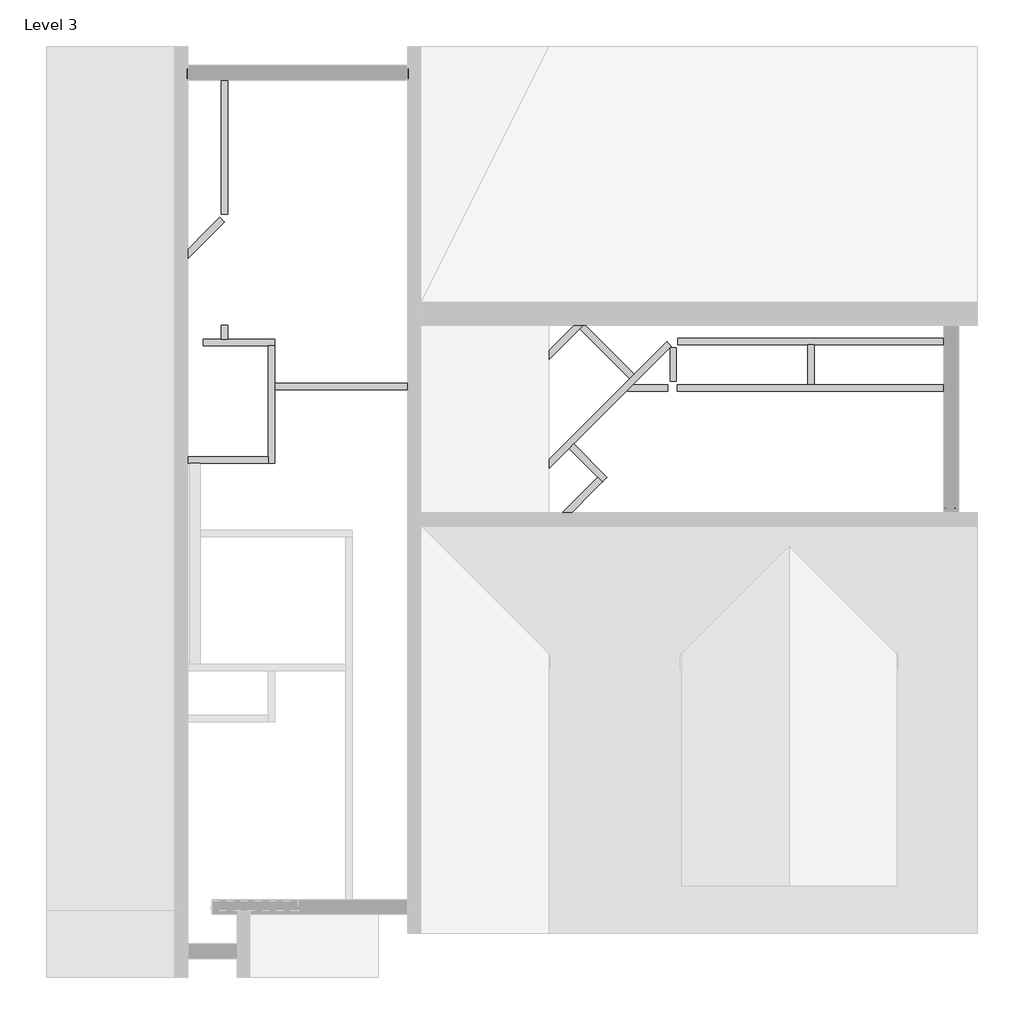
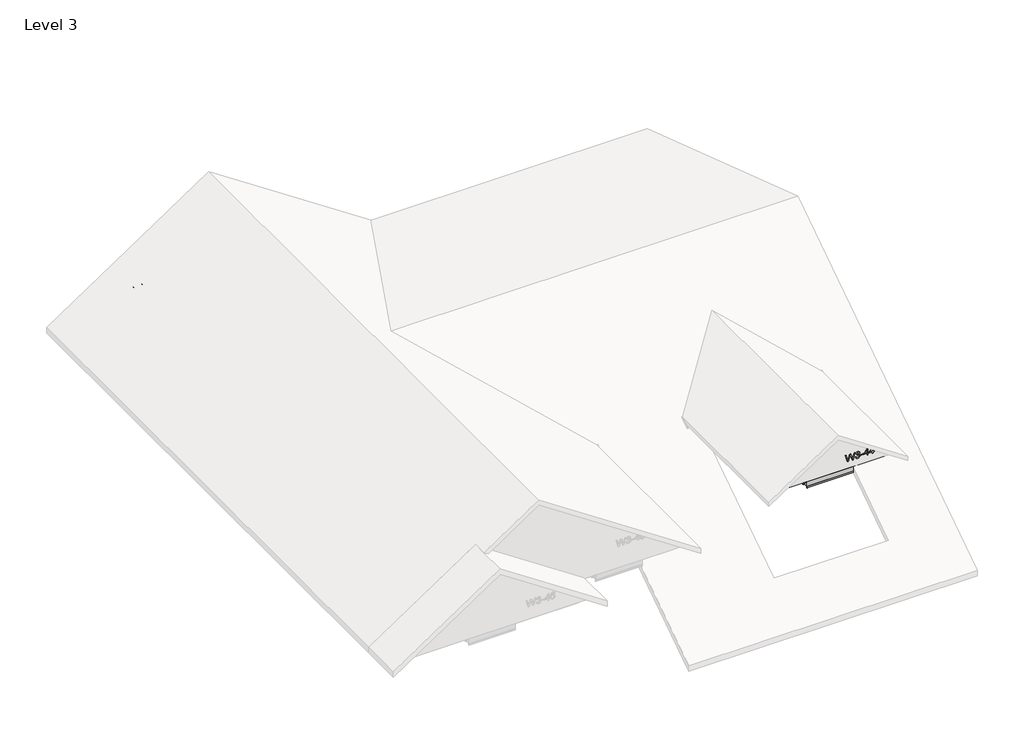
# One storey, part 2 of 2: 53 beams, 30 columns, 3 fasteners.
"""IFC4 building model written with IfcOpenShell, lengths in millimetres."""

from ifc_helpers import new_model, si_unit, frame, origin, place, context, project, spatial, polyline, outline, extrude, transform, mapped, element, save
from components import beam_350nf150_33_10881730, beam_350nf150_33_c7d518e1, beam_350nf150_33_2afbb7e6, beam_350nf150_33_87fa722b, beam_350nf150_33_f021e00d, beam_350nf150_33_0b14d3bd, beam_350nf150_33_a1fc3611, beam_350nf150_33_51850225, beam_350nf150_33_bcca35cb, beam_350nf150_33_3c5b6d2f, beam_350nf150_33_3de24a85, beam_350nf150_33_a90d9724, beam_350nf150_33_a9979069, beam_350nf150_33_bf93f831, beam_350nf150_33_fd0ba1fb, beam_350nf150_33_e3974812, beam_350nf150_33_a87a63be, beam_350nf150_33_bbf778cd, beam_350nf150_33_17b93a07, beam_550nf150_33_5edfe896, beam_550nf150_33_879dc33d, beam_550nf150_33_0f8e2ec6, beam_550nf150_33_4c237a5f, beam_550nf150_43_358bc03b, beam_550nf150_43_bc1485c3, beam_550nf150_43_6b8d1d64, beam_550nf150_43_ba83b193, beam_550nf150_43_92e15598, beam_550nf150_43_cb838aee, beam_550nf150_43_e6c4ef75, beam_550nf150_43_10f90b38, beam_550nf150_43_7de187ee, column_550nf150_43_6fda3f71, column_550nf150_43_e552a574, column_550nf150_43_0c05c255, column_550nf150_43_7f698803, column_550nf150_43_1ca68b22, column_550nf150_43_8920a52b, column_550nf150_43_ac53dd8c, column_550nf150_43_fb281cc0, column_550nf150_43_69f97449, column_550nf150_43_5652886b, column_550nf150_43_228408e8, column_550nf150_43_6b4b1e00, column_550nf150_43_2e02f915, column_550nf150_43_f0339cc5, column_550nf150_43_92f36f76, column_550nf150_43_20ea3d9e, column_550nf150_43_9fc12009, column_550nf150_43_49d5b36e, column_550nf150_43_59c9e54e, column_550nf150_43_f62720cc, column_550nf150_43_42e9d910, column_550nf150_43_ea748249, column_550nf150_43_03f42614, column_550nf150_43_7a31c3e5, column_550nf150_43_3b79bf27, column_550nf150_43_7b1025fd, column_550nf150_43_06d72ba6, column_550nf150_43_696eef58, column_550nf150_43_0c3e40f0, panellabel_a7a4828a, panellabel_9aa3c6cf, panellabel_ba2c120b

model = new_model("IFC4")

# Units and contexts
model_context = context("Model", 3, world=origin())
ifc_project = project(units=[si_unit("LENGTHUNIT", "METRE", prefix="MILLI")], contexts=[model_context])

# Site, building, storey
site = spatial("IfcSite", under=ifc_project)
building = spatial("IfcBuilding", under=site)
storey = spatial("IfcBuildingStorey", under=building, Name="Level 3", Elevation=5524.5)

# Beams
placement = place(None, origin())
beam_350nf150_33_shape = beam_350nf150_33_10881730(model_context)
element("IfcBeam", 1, ObjectType="BIMSF-SSMA-S : 350NF150-33", at=placement, inside=storey, context=model_context, shape_type="MappedRepresentation", body=[
    mapped(beam_350nf150_33_shape, transform((-8163.5735524, 12239.0177158, 5508.625), x_axis=(0.0, -1.0, 0.0), y_axis=(0.0, 0.0, 1.0), z_axis=(-1.0, 0.0, 0.0))),
])
beam_350nf150_33_2_shape = beam_350nf150_33_c7d518e1(model_context)
element("IfcBeam", 2, ObjectType="BIMSF-SSMA-S : 350NF150-33", at=placement, inside=storey, context=model_context, shape_type="MappedRepresentation", body=[
    mapped(beam_350nf150_33_2_shape, transform((-13820.9038349, 8626.602221, 5508.625), x_axis=(1.0, 0.0, 0.0), y_axis=(0.0, 0.0, 1.0), z_axis=(0.0, -1.0, 0.0))),
])
beam_350nf150_33_3_shape = beam_350nf150_33_2afbb7e6(model_context)
element("IfcBeam", 3, ObjectType="BIMSF-SSMA-S : 350NF150-33", at=placement, inside=storey, context=model_context, shape_type="MappedRepresentation", body=[
    mapped(beam_350nf150_33_3_shape, transform((-12473.1163349, 9390.189721, 5508.625), x_axis=(0.0, 1.0, 0.0), y_axis=(0.0, 0.0, 1.0), z_axis=(1.0, 0.0, 0.0))),
])
beam_350nf150_33_4_shape = beam_350nf150_33_87fa722b(model_context)
element("IfcBeam", 4, ObjectType="BIMSF-SSMA-S : 350NF150-33", at=placement, inside=storey, context=model_context, shape_type="MappedRepresentation", body=[
    mapped(beam_350nf150_33_4_shape, transform((-12921.6955722, 10242.677221, 5508.625), x_axis=(-1.0, 0.0, 0.0), y_axis=(0.0, 0.0, 1.0), z_axis=(0.0, 1.0, 0.0))),
])
beam_350nf150_33_5_shape = beam_350nf150_33_f021e00d(model_context)
element("IfcBeam", 5, ObjectType="BIMSF-SSMA-S : 350NF150-33", at=placement, inside=storey, context=model_context, shape_type="MappedRepresentation", body=[
    mapped(beam_350nf150_33_5_shape, transform((-10785.9229385, 9633.077221, 5508.625), x_axis=(1.0, 0.0, 0.0), y_axis=(0.0, 0.0, 1.0), z_axis=(0.0, -1.0, 0.0))),
])
beam_350nf150_33_6_shape = beam_350nf150_33_0b14d3bd(model_context)
element("IfcBeam", 6, ObjectType="BIMSF-SSMA-S : 350NF150-33", at=placement, inside=storey, context=model_context, shape_type="MappedRepresentation", body=[
    mapped(beam_350nf150_33_6_shape, transform((-13123.9913349, 12934.7090374, 5508.625), x_axis=(0.0, -1.0, 0.0), y_axis=(0.0, 0.0, 1.0), z_axis=(-1.0, 0.0, 0.0))),
])
beam_350nf150_33_7_shape = beam_350nf150_33_a1fc3611(model_context)
element("IfcBeam", 7, ObjectType="BIMSF-SSMA-S : 350NF150-33", at=placement, inside=storey, context=model_context, shape_type="MappedRepresentation", body=[
    mapped(beam_350nf150_33_7_shape, transform((-14495.2231513, 11261.852221, 5508.625), x_axis=(1.0, 0.0, 0.0), y_axis=(0.0, 0.0, 1.0), z_axis=(0.0, -1.0, 0.0))),
])
beam_350nf150_33_8_shape = beam_350nf150_33_51850225(model_context)
element("IfcBeam", 8, ObjectType="BIMSF-SSMA-S : 350NF150-33", at=placement, inside=storey, context=model_context, shape_type="MappedRepresentation", body=[
    mapped(beam_350nf150_33_8_shape, transform((-13458.5608681, 11625.0463205, 5508.625), x_axis=(0.7071067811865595, 0.7071067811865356, 0.0), y_axis=(0.0, 0.0, 1.0), z_axis=(0.7071067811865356, -0.7071067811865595, 0.0))),
])
beam_350nf150_33_9_shape = beam_350nf150_33_bcca35cb(model_context)
element("IfcBeam", 9, ObjectType="BIMSF-SSMA-S : 350NF150-33", at=placement, inside=storey, context=model_context, shape_type="MappedRepresentation", body=[
    mapped(beam_350nf150_33_9_shape, transform((-8623.2388304, 10108.5679326, 5508.625), x_axis=(0.707106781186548, 0.7071067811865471, 0.0), y_axis=(0.0, 0.0, 1.0), z_axis=(0.7071067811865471, -0.707106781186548, 0.0))),
])
beam_350nf150_33_10_shape = beam_350nf150_33_3c5b6d2f(model_context)
element("IfcBeam", 10, ObjectType="BIMSF-SSMA-S : 350NF150-33", at=placement, inside=storey, context=model_context, shape_type="MappedRepresentation", body=[
    mapped(beam_350nf150_33_10_shape, transform((-13123.9913349, 10383.1422795, 5508.625), x_axis=(0.0, -1.0, 0.0), y_axis=(0.0, 0.0, 1.0), z_axis=(-1.0, 0.0, 0.0))),
])
beam_350nf150_33_11_shape = beam_350nf150_33_3de24a85(model_context)
element("IfcBeam", 11, ObjectType="BIMSF-SSMA-S : 350NF150-33", at=placement, inside=storey, context=model_context, shape_type="MappedRepresentation", body=[
    mapped(beam_350nf150_33_11_shape, transform((-8016.7935008, 9210.8203619, 5508.625), x_axis=(0.7071067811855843, 0.7071067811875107, 0.0), y_axis=(0.0, 0.0, 1.0), z_axis=(0.7071067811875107, -0.7071067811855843, 0.0))),
])
beam_350nf150_33_12_shape = beam_350nf150_33_a90d9724(model_context)
element("IfcBeam", 12, ObjectType="BIMSF-SSMA-S : 350NF150-33", at=placement, inside=storey, context=model_context, shape_type="MappedRepresentation", body=[
    mapped(beam_350nf150_33_12_shape, transform((-5051.6015983, 10251.1207511, 5508.625), x_axis=(1.0, 0.0, 0.0), y_axis=(0.0, 0.0, 1.0), z_axis=(0.0, -1.0, 0.0))),
])
beam_350nf150_33_13_shape = beam_350nf150_33_a9979069(model_context)
element("IfcBeam", 13, ObjectType="BIMSF-SSMA-S : 350NF150-33", at=placement, inside=storey, context=model_context, shape_type="MappedRepresentation", body=[
    mapped(beam_350nf150_33_13_shape, transform((-5054.8543697, 9615.2035298, 5508.625), x_axis=(-1.0, 0.0, 0.0), y_axis=(0.0, 0.0, 1.0), z_axis=(0.0, 1.0, 0.0))),
])
beam_350nf150_33_14_shape = beam_350nf150_33_bf93f831(model_context)
element("IfcBeam", 14, ObjectType="BIMSF-SSMA-S : 350NF150-33", at=placement, inside=storey, context=model_context, shape_type="MappedRepresentation", body=[
    mapped(beam_350nf150_33_14_shape, transform((-6950.4549045, 9935.1465154, 5508.625), x_axis=(0.0, -1.0, 0.0), y_axis=(0.0, 0.0, 1.0), z_axis=(-1.0, 0.0, 0.0))),
])
beam_350nf150_33_15_shape = beam_350nf150_33_fd0ba1fb(model_context)
element("IfcBeam", 15, ObjectType="BIMSF-SSMA-S : 350NF150-33", at=placement, inside=storey, context=model_context, shape_type="MappedRepresentation", body=[
    mapped(beam_350nf150_33_15_shape, transform((-5058.8231197, 9933.1621404, 5508.625), x_axis=(0.0, 1.0, 0.0), y_axis=(0.0, 0.0, 1.0), z_axis=(1.0, 0.0, 0.0))),
])
beam_350nf150_33_16_shape = beam_350nf150_33_e3974812(model_context)
element("IfcBeam", 16, ObjectType="BIMSF-SSMA-S : 350NF150-33", at=placement, inside=storey, context=model_context, shape_type="MappedRepresentation", body=[
    mapped(beam_350nf150_33_16_shape, transform((-8232.4643379, 8079.1634004, 5508.625), x_axis=(0.7071067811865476, 0.7071067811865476, 0.0), y_axis=(0.0, 0.0, 1.0), z_axis=(0.7071067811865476, -0.7071067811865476, 0.0))),
])
beam_350nf150_33_17_shape = beam_350nf150_33_a87a63be(model_context)
element("IfcBeam", 17, ObjectType="BIMSF-SSMA-S : 350NF150-33", at=placement, inside=storey, context=model_context, shape_type="MappedRepresentation", body=[
    mapped(beam_350nf150_33_17_shape, transform((-8122.4911484, 8584.2678593, 5508.625), x_axis=(-0.7071067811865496, 0.7071067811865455, 0.0), y_axis=(0.0, 0.0, 1.0), z_axis=(0.7071067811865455, 0.7071067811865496, 0.0))),
])
beam_350nf150_33_18_shape = beam_350nf150_33_bbf778cd(model_context)
element("IfcBeam", 18, ObjectType="BIMSF-SSMA-S : 350NF150-33", at=placement, inside=storey, context=model_context, shape_type="MappedRepresentation", body=[
    mapped(beam_350nf150_33_18_shape, transform((-7301.6732437, 9615.2035298, 5508.625), x_axis=(-1.0, 0.0, 0.0), y_axis=(0.0, 0.0, 1.0), z_axis=(0.0, 1.0, 0.0))),
])
beam_350nf150_33_19_shape = beam_350nf150_33_17b93a07(model_context)
element("IfcBeam", 19, ObjectType="BIMSF-SSMA-S : 350NF150-33", at=placement, inside=storey, context=model_context, shape_type="MappedRepresentation", body=[
    mapped(beam_350nf150_33_19_shape, transform((-7863.1862529, 10116.5240599, 5508.625), x_axis=(0.7071067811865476, -0.7071067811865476, 0.0), y_axis=(0.0, 0.0, 1.0), z_axis=(-0.7071067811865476, -0.7071067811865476, 0.0))),
])
beam_550nf150_33_shape = beam_550nf150_33_5edfe896(model_context)
element("IfcBeam", 20, ObjectType="BIMSF-SSMA-S : 550NF150-33", at=placement, inside=storey, context=model_context, shape_type="MappedRepresentation", body=[
    mapped(beam_550nf150_33_shape, transform((-3088.6986507, 8242.9332511, 5453.5003158), x_axis=(0.0, -1.0, 0.0), y_axis=(1.0, 0.0, 0.0), z_axis=(0.0, 0.0, 1.0))),
])
element("IfcBeam", 21, ObjectType="BIMSF-SSMA-S : 550NF150-33", at=placement, inside=storey, context=model_context, shape_type="MappedRepresentation", body=[
    mapped(beam_550nf150_33_shape, transform((-3194.8840191, 8242.9332511, 5453.5003158), x_axis=(0.0, -1.0, 0.0), y_axis=(-1.0, 0.0, 0.0), z_axis=(0.0, 0.0, -1.0))),
])
element("IfcBeam", 22, ObjectType="BIMSF-SSMA-S : 550NF150-33", at=placement, inside=storey, context=model_context, shape_type="MappedRepresentation", body=[
    mapped(beam_550nf150_33_shape, transform((-3141.7913349, 8242.9332511, 5367.7753158), x_axis=(0.0, -1.0, 0.0), y_axis=(0.0, 0.0, 1.0), z_axis=(-1.0, 0.0, 0.0))),
])
element("IfcBeam", 23, ObjectType="BIMSF-SSMA-S : 550NF150-33", at=placement, inside=storey, context=model_context, shape_type="MappedRepresentation", body=[
    mapped(beam_550nf150_33_shape, transform((-5357.9413349, 3091.8720367, 5453.5003158), x_axis=(-1.0, 0.0, 0.0), y_axis=(0.0, -1.0, 0.0), z_axis=(0.0, 0.0, 1.0))),
])
element("IfcBeam", 24, ObjectType="BIMSF-SSMA-S : 550NF150-33", at=placement, inside=storey, context=model_context, shape_type="MappedRepresentation", body=[
    mapped(beam_550nf150_33_shape, transform((-5357.9413349, 3198.0574052, 5453.5003158), x_axis=(-1.0, 0.0, 0.0), y_axis=(0.0, 1.0, 0.0), z_axis=(0.0, 0.0, -1.0))),
])
element("IfcBeam", 25, ObjectType="BIMSF-SSMA-S : 550NF150-33", at=placement, inside=storey, context=model_context, shape_type="MappedRepresentation", body=[
    mapped(beam_550nf150_33_shape, transform((-5357.9413349, 3144.964721, 5367.7753158), x_axis=(-1.0, 0.0, 0.0), y_axis=(0.0, 0.0, 1.0), z_axis=(0.0, 1.0, 0.0))),
])
beam_550nf150_33_2_shape = beam_550nf150_33_879dc33d(model_context)
element("IfcBeam", 26, ObjectType="BIMSF-SSMA-S : 550NF150-33", at=placement, inside=storey, context=model_context, shape_type="MappedRepresentation", body=[
    mapped(beam_550nf150_33_2_shape, transform((-4201.5361507, 5821.489721, 5453.5003158), x_axis=(0.0, -1.0, 0.0), y_axis=(1.0, 0.0, 0.0), z_axis=(0.0, 0.0, 1.0))),
])
element("IfcBeam", 27, ObjectType="BIMSF-SSMA-S : 550NF150-33", at=placement, inside=storey, context=model_context, shape_type="MappedRepresentation", body=[
    mapped(beam_550nf150_33_2_shape, transform((-4307.7215191, 5821.489721, 5453.5003158), x_axis=(0.0, -1.0, 0.0), y_axis=(-1.0, 0.0, 0.0), z_axis=(0.0, 0.0, -1.0))),
])
element("IfcBeam", 28, ObjectType="BIMSF-SSMA-S : 550NF150-33", at=placement, inside=storey, context=model_context, shape_type="MappedRepresentation", body=[
    mapped(beam_550nf150_33_2_shape, transform((-4254.6288349, 5821.489721, 5367.7753158), x_axis=(0.0, -1.0, 0.0), y_axis=(0.0, 0.0, 1.0), z_axis=(-1.0, 0.0, 0.0))),
])
element("IfcBeam", 29, ObjectType="BIMSF-SSMA-S : 550NF150-33", at=placement, inside=storey, context=model_context, shape_type="MappedRepresentation", body=[
    mapped(beam_550nf150_33_2_shape, transform((-15247.1840191, 9077.6062273, 5453.5003158), x_axis=(0.0, 1.0, 0.0), y_axis=(-1.0, 0.0, 0.0), z_axis=(0.0, 0.0, 1.0))),
])
element("IfcBeam", 30, ObjectType="BIMSF-SSMA-S : 550NF150-33", at=placement, inside=storey, context=model_context, shape_type="MappedRepresentation", body=[
    mapped(beam_550nf150_33_2_shape, transform((-15140.9986507, 9077.6062273, 5453.5003158), x_axis=(0.0, 1.0, 0.0), y_axis=(1.0, 0.0, 0.0), z_axis=(0.0, 0.0, -1.0))),
])
element("IfcBeam", 31, ObjectType="BIMSF-SSMA-S : 550NF150-33", at=placement, inside=storey, context=model_context, shape_type="MappedRepresentation", body=[
    mapped(beam_550nf150_33_2_shape, transform((-15194.0913349, 9077.6062273, 5367.7753158), x_axis=(0.0, 1.0, 0.0), y_axis=(0.0, 0.0, 1.0), z_axis=(1.0, 0.0, 0.0))),
])
beam_550nf150_33_3_shape = beam_550nf150_33_0f8e2ec6(model_context)
element("IfcBeam", 32, ObjectType="BIMSF-SSMA-S : 550NF150-33", at=placement, inside=storey, context=model_context, shape_type="MappedRepresentation", body=[
    mapped(beam_550nf150_33_3_shape, transform((-5665.3824436, 13988.2949052, 5453.5003158), x_axis=(1.0, 0.0, 0.0), y_axis=(0.0, 1.0, 0.0), z_axis=(0.0, 0.0, 1.0))),
])
element("IfcBeam", 33, ObjectType="BIMSF-SSMA-S : 550NF150-33", at=placement, inside=storey, context=model_context, shape_type="MappedRepresentation", body=[
    mapped(beam_550nf150_33_3_shape, transform((-5665.3824436, 13882.1095367, 5453.5003158), x_axis=(1.0, 0.0, 0.0), y_axis=(0.0, -1.0, 0.0), z_axis=(0.0, 0.0, -1.0))),
])
element("IfcBeam", 34, ObjectType="BIMSF-SSMA-S : 550NF150-33", at=placement, inside=storey, context=model_context, shape_type="MappedRepresentation", body=[
    mapped(beam_550nf150_33_3_shape, transform((-5665.3824436, 13935.202221, 5367.7753158), x_axis=(1.0, 0.0, 0.0), y_axis=(0.0, 0.0, 1.0), z_axis=(0.0, -1.0, 0.0))),
])
beam_550nf150_33_4_shape = beam_550nf150_33_4c237a5f(model_context)
element("IfcBeam", 35, ObjectType="BIMSF-SSMA-S : 550NF150-33", at=placement, inside=storey, context=model_context, shape_type="MappedRepresentation", body=[
    mapped(beam_550nf150_33_4_shape, transform((-7195.4725849, 6401.8095367, 5453.5003158), x_axis=(-1.0, 0.0, 0.0), y_axis=(0.0, -1.0, 0.0), z_axis=(0.0, 0.0, 1.0))),
])
element("IfcBeam", 36, ObjectType="BIMSF-SSMA-S : 550NF150-33", at=placement, inside=storey, context=model_context, shape_type="MappedRepresentation", body=[
    mapped(beam_550nf150_33_4_shape, transform((-7195.4725849, 6507.9949052, 5453.5003158), x_axis=(-1.0, 0.0, 0.0), y_axis=(0.0, 1.0, 0.0), z_axis=(0.0, 0.0, -1.0))),
])
element("IfcBeam", 37, ObjectType="BIMSF-SSMA-S : 550NF150-33", at=placement, inside=storey, context=model_context, shape_type="MappedRepresentation", body=[
    mapped(beam_550nf150_33_4_shape, transform((-7195.4725849, 6454.902221, 5367.7753158), x_axis=(-1.0, 0.0, 0.0), y_axis=(0.0, 0.0, 1.0), z_axis=(0.0, 1.0, 0.0))),
])
element("IfcBeam", 38, ObjectType="BIMSF-SSMA-S : 550NF150-43", at=placement, inside=storey, context=model_context, shape_type="SweptSolid", body=[
    extrude(outline(polyline([(0.0, 0.0), (139.7, 0.0), (139.7, -38.1), (134.9248, -38.1), (134.9248, -36.9503158), (138.5503158, -36.9503158), (138.5503158, -1.1496842), (1.1496843, -1.1496842), (1.1496843, -36.9503158), (4.7752, -36.9503158), (4.7752, -38.1), (0.0, -38.1), (0.0, 0.0)])), frame((-4115.8460843, 3214.814721, 5623.648208), z_axis=(-0.8320502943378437, 0.0, 0.5547001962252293), x_axis=(0.0, -1.0, 0.0)), (0.0, 0.0, 1.0), 1490.6960383),
])
element("IfcBeam", 39, ObjectType="BIMSF-SSMA-S : 550NF150-43", at=placement, inside=storey, context=model_context, shape_type="SweptSolid", body=[
    extrude(outline(polyline([(0.0, 0.0), (139.7, 0.0), (139.7, -38.1), (134.9248, -38.1), (134.9248, -36.9503157), (138.5503158, -36.9503157), (138.5503158, -1.1496842), (1.1496842, -1.1496842), (1.1496842, -36.9503157), (4.7752, -36.9503157), (4.7752, -38.1), (0.0, -38.1), (0.0, 0.0)])), frame((-3211.6413349, 14018.104522, 5547.6686758), z_axis=(0.0, -0.9486832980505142, 0.3162277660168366), x_axis=(1.0, 0.0, 0.0)), (0.0, 0.0, 1.0), 5543.1942237),
])
element("IfcBeam", 40, ObjectType="BIMSF-SSMA-S : 550NF150-43", at=placement, inside=storey, context=model_context, shape_type="SweptSolid", body=[
    extrude(outline(polyline([(0.0, 0.0), (0.0, -38.1), (-4.7752, -38.1), (-4.7752, -36.9503158), (-1.1496842, -36.9503158), (-1.1496842, -1.1496842), (-138.5503158, -1.1496842), (-138.5503158, -36.9503158), (-134.9248, -36.9503158), (-134.9248, -38.1), (-139.7, -38.1), (-139.7, 0.0), (0.0, 0.0)])), frame((-3211.6413349, 6081.4962468, 5516.8054246), z_axis=(0.0, 0.8320502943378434, 0.5547001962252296), x_axis=(-1.0, 0.0, 0.0)), (0.0, 0.0, 1.0), 3215.0788471),
])
element("IfcBeam", 41, ObjectType="BIMSF-SSMA-S : 550NF150-43", at=placement, inside=storey, context=model_context, shape_type="SweptSolid", body=[
    extrude(outline(polyline([(0.0, 0.0), (139.7, 0.0), (139.7, -38.1), (134.9248, -38.1), (134.9248, -36.9503158), (138.5503157, -36.9503158), (138.5503157, -1.1496842), (1.1496842, -1.1496842), (1.1496842, -36.9503158), (4.7752, -36.9503158), (4.7752, -38.1), (0.0, -38.1), (0.0, 0.0)])), frame((-15286.8365855, 13865.352221, 5623.8128739), z_axis=(0.8320502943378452, 0.0, 0.554700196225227), x_axis=(0.0, 1.0, 0.0)), (0.0, 0.0, 1.0), 3810.7480991),
])
element("IfcBeam", 42, ObjectType="BIMSF-SSMA-S : 550NF150-43", at=placement, inside=storey, context=model_context, shape_type="SweptSolid", body=[
    extrude(outline(polyline([(0.0, 0.0), (0.0, -38.1), (-4.7752, -38.1), (-4.7752, -36.9503158), (-1.1496842, -36.9503158), (-1.1496842, -1.1496842), (-138.5503157, -1.1496842), (-138.5503157, -36.9503158), (-134.9248, -36.9503158), (-134.9248, -38.1), (-139.7, -38.1), (-139.7, 0.0), (0.0, 0.0)])), frame((-8941.8460843, 13865.352221, 5623.8128739), z_axis=(-0.8320502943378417, 0.0, 0.554700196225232), x_axis=(0.0, -1.0, 0.0)), (0.0, 0.0, 1.0), 3810.7480991),
])
beam_550nf150_43_shape = beam_550nf150_43_358bc03b(model_context)
element("IfcBeam", 43, ObjectType="BIMSF-SSMA-S : 550NF150-43", at=placement, inside=storey, context=model_context, shape_type="MappedRepresentation", body=[
    mapped(beam_550nf150_43_shape, transform((-12114.3413349, 13935.202221, 5540.375), x_axis=(1.0000000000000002, 0.0, 0.0), y_axis=(0.0, 0.0, -1.0000000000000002), z_axis=(0.0, 1.0000000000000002, 0.0))),
])
beam_550nf150_43_2_shape = beam_550nf150_43_bc1485c3(model_context)
element("IfcBeam", 44, ObjectType="BIMSF-SSMA-S : 550NF150-43", at=placement, inside=storey, context=model_context, shape_type="MappedRepresentation", body=[
    mapped(beam_550nf150_43_2_shape, transform((-12215.9413349, 13935.202221, 5508.625), x_axis=(1.0, 0.0, 0.0), y_axis=(0.0, 0.0, 1.0), z_axis=(0.0, -1.0, 0.0))),
])
beam_550nf150_43_3_shape = beam_550nf150_43_6b8d1d64(model_context)
element("IfcBeam", 45, ObjectType="BIMSF-SSMA-S : 550NF150-43", at=placement, inside=storey, context=model_context, shape_type="MappedRepresentation", body=[
    mapped(beam_550nf150_43_3_shape, transform((-3141.7913349, 9984.8718592, 5508.625), x_axis=(0.0, -1.0, 0.0), y_axis=(0.0, 0.0, 1.0), z_axis=(-1.0, 0.0, 0.0))),
])
beam_550nf150_43_4_shape = beam_550nf150_43_ba83b193(model_context)
element("IfcBeam", 46, ObjectType="BIMSF-SSMA-S : 550NF150-43", at=placement, inside=storey, context=model_context, shape_type="MappedRepresentation", body=[
    mapped(beam_550nf150_43_4_shape, transform((-3141.7913349, 10054.7218592, 5540.375), x_axis=(0.0, -1.0000000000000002, 0.0), y_axis=(0.0, 0.0, -1.0000000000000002), z_axis=(1.0000000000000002, 0.0, 0.0))),
])
beam_550nf150_43_5_shape = beam_550nf150_43_92e15598(model_context)
element("IfcBeam", 47, ObjectType="BIMSF-SSMA-S : 550NF150-43", at=placement, inside=storey, context=model_context, shape_type="MappedRepresentation", body=[
    mapped(beam_550nf150_43_5_shape, transform((-15194.0913349, 10886.5324992, 5508.625), x_axis=(0.0, 1.0, 0.0), y_axis=(0.0, 0.0, 1.0), z_axis=(1.0, 0.0, 0.0))),
])
beam_550nf150_43_6_shape = beam_550nf150_43_cb838aee(model_context)
element("IfcBeam", 48, ObjectType="BIMSF-SSMA-S : 550NF150-43", at=placement, inside=storey, context=model_context, shape_type="MappedRepresentation", body=[
    mapped(beam_550nf150_43_6_shape, transform((-4254.6288349, 4799.933471, 5508.625), x_axis=(0.0, -1.0, 0.0), y_axis=(0.0, 0.0, 1.0), z_axis=(-1.0, 0.0, 0.0))),
])
beam_550nf150_43_7_shape = beam_550nf150_43_e6c4ef75(model_context)
element("IfcBeam", 49, ObjectType="BIMSF-SSMA-S : 550NF150-43", at=placement, inside=storey, context=model_context, shape_type="MappedRepresentation", body=[
    mapped(beam_550nf150_43_7_shape, transform((-3768.0600849, 6454.902221, 5508.625), x_axis=(-1.0, 0.0, 0.0), y_axis=(0.0, 0.0, 1.0), z_axis=(0.0, 1.0, 0.0))),
])
beam_550nf150_43_8_shape = beam_550nf150_43_10f90b38(model_context)
element("IfcBeam", 50, ObjectType="BIMSF-SSMA-S : 550NF150-43", at=placement, inside=storey, context=model_context, shape_type="MappedRepresentation", body=[
    mapped(beam_550nf150_43_8_shape, transform((-7705.4569599, 6454.902221, 5508.625), x_axis=(-1.0, 0.0, 0.0), y_axis=(0.0, 0.0, 1.0), z_axis=(0.0, 1.0, 0.0))),
])
element("IfcBeam", 51, ObjectType="BIMSF-SSMA-S : 550NF150-43", at=placement, inside=storey, context=model_context, shape_type="MappedRepresentation", body=[
    mapped(beam_550nf150_43_6_shape, transform((-6461.2538349, 4799.933471, 5508.625), x_axis=(0.0, 1.0, 0.0), y_axis=(0.0, 0.0, 1.0), z_axis=(1.0, 0.0, 0.0))),
])
beam_550nf150_43_9_shape = beam_550nf150_43_7de187ee(model_context)
element("IfcBeam", 52, ObjectType="BIMSF-SSMA-S : 550NF150-43", at=placement, inside=storey, context=model_context, shape_type="MappedRepresentation", body=[
    mapped(beam_550nf150_43_9_shape, transform((-5357.9413349, 3144.964721, 5508.625), x_axis=(-1.0, 0.0, 0.0), y_axis=(0.0, 0.0, 1.0), z_axis=(0.0, 1.0, 0.0))),
])
element("IfcBeam", 53, ObjectType="BIMSF-SSMA-S : 550NF150-43", at=placement, inside=storey, context=model_context, shape_type="MappedRepresentation", body=[
    mapped(beam_550nf150_43_2_shape, transform((-6119.9413349, 13935.202221, 5508.625), x_axis=(1.0, 0.0, 0.0), y_axis=(0.0, 0.0, 1.0), z_axis=(0.0, -1.0, 0.0))),
])

# Columns
column_550nf150_43_shape = column_550nf150_43_6fda3f71(model_context)
element("IfcColumn", 54, ObjectType="BIMSF-SSMA-S-Column : 550NF150-43", at=placement, inside=storey, context=model_context, shape_type="MappedRepresentation", body=[
    mapped(column_550nf150_43_shape, transform((-15251.9435471, 13945.9393459, 0.0), x_axis=(1.0, 0.0, 0.0), y_axis=(0.0, 1.0, 0.0), z_axis=(0.0, 0.0, 1.0))),
])
element("IfcColumn", 55, ObjectType="BIMSF-SSMA-S-Column : 550NF150-43", at=placement, inside=storey, context=model_context, shape_type="MappedRepresentation", body=[
    mapped(column_550nf150_43_shape, transform((-8976.7391226, 13924.465096, 0.0), x_axis=(-1.0, 0.0, 0.0), y_axis=(0.0, -1.0, 0.0), z_axis=(0.0, 0.0, 1.0))),
])
column_550nf150_43_2_shape = column_550nf150_43_e552a574(model_context)
element("IfcColumn", 56, ObjectType="BIMSF-SSMA-S-Column : 550NF150-43", at=placement, inside=storey, context=model_context, shape_type="MappedRepresentation", body=[
    mapped(column_550nf150_43_2_shape, transform((-14382.2912034, 13945.9393459, 0.0), x_axis=(1.0, 0.0, 0.0), y_axis=(0.0, 1.0, 0.0), z_axis=(0.0, 0.0, 1.0))),
])
column_550nf150_43_3_shape = column_550nf150_43_0c05c255(model_context)
element("IfcColumn", 57, ObjectType="BIMSF-SSMA-S-Column : 550NF150-43", at=placement, inside=storey, context=model_context, shape_type="MappedRepresentation", body=[
    mapped(column_550nf150_43_3_shape, transform((-14991.8912034, 13945.9393459, 0.0), x_axis=(1.0, 0.0, 0.0), y_axis=(0.0, 1.0, 0.0), z_axis=(0.0, 0.0, 1.0))),
])
column_550nf150_43_4_shape = column_550nf150_43_7f698803(model_context)
element("IfcColumn", 58, ObjectType="BIMSF-SSMA-S-Column : 550NF150-43", at=placement, inside=storey, context=model_context, shape_type="MappedRepresentation", body=[
    mapped(column_550nf150_43_4_shape, transform((-13772.6912034, 13945.9393459, 0.0), x_axis=(1.0, 0.0, 0.0), y_axis=(0.0, 1.0, 0.0), z_axis=(0.0, 0.0, 1.0))),
])
column_550nf150_43_5_shape = column_550nf150_43_1ca68b22(model_context)
element("IfcColumn", 59, ObjectType="BIMSF-SSMA-S-Column : 550NF150-43", at=placement, inside=storey, context=model_context, shape_type="MappedRepresentation", body=[
    mapped(column_550nf150_43_5_shape, transform((-13163.0912034, 13945.9393459, 0.0), x_axis=(1.0, 0.0, 0.0), y_axis=(0.0, 1.0, 0.0), z_axis=(0.0, 0.0, 1.0))),
])
column_550nf150_43_6_shape = column_550nf150_43_8920a52b(model_context)
element("IfcColumn", 60, ObjectType="BIMSF-SSMA-S-Column : 550NF150-43", at=placement, inside=storey, context=model_context, shape_type="MappedRepresentation", body=[
    mapped(column_550nf150_43_6_shape, transform((-12553.4912034, 13945.9393459, 0.0), x_axis=(1.0, 0.0, 0.0), y_axis=(0.0, 1.0, 0.0), z_axis=(0.0, 0.0, 1.0))),
])
column_550nf150_43_7_shape = column_550nf150_43_ac53dd8c(model_context)
element("IfcColumn", 61, ObjectType="BIMSF-SSMA-S-Column : 550NF150-43", at=placement, inside=storey, context=model_context, shape_type="MappedRepresentation", body=[
    mapped(column_550nf150_43_7_shape, transform((-11943.8912034, 13945.9393459, 0.0), x_axis=(1.0, 0.0, 0.0), y_axis=(0.0, 1.0, 0.0), z_axis=(0.0, 0.0, 1.0))),
])
column_550nf150_43_8_shape = column_550nf150_43_fb281cc0(model_context)
element("IfcColumn", 62, ObjectType="BIMSF-SSMA-S-Column : 550NF150-43", at=placement, inside=storey, context=model_context, shape_type="MappedRepresentation", body=[
    mapped(column_550nf150_43_8_shape, transform((-11334.2912034, 13945.9393459, 0.0), x_axis=(1.0, 0.0, 0.0), y_axis=(0.0, 1.0, 0.0), z_axis=(0.0, 0.0, 1.0))),
])
column_550nf150_43_9_shape = column_550nf150_43_69f97449(model_context)
element("IfcColumn", 63, ObjectType="BIMSF-SSMA-S-Column : 550NF150-43", at=placement, inside=storey, context=model_context, shape_type="MappedRepresentation", body=[
    mapped(column_550nf150_43_9_shape, transform((-10724.6912034, 13945.9393459, 0.0), x_axis=(1.0, 0.0, 0.0), y_axis=(0.0, 1.0, 0.0), z_axis=(0.0, 0.0, 1.0))),
])
column_550nf150_43_10_shape = column_550nf150_43_5652886b(model_context)
element("IfcColumn", 64, ObjectType="BIMSF-SSMA-S-Column : 550NF150-43", at=placement, inside=storey, context=model_context, shape_type="MappedRepresentation", body=[
    mapped(column_550nf150_43_10_shape, transform((-10115.0912034, 13945.9393459, 0.0), x_axis=(1.0, 0.0, 0.0), y_axis=(0.0, 1.0, 0.0), z_axis=(0.0, 0.0, 1.0))),
])
column_550nf150_43_11_shape = column_550nf150_43_228408e8(model_context)
element("IfcColumn", 65, ObjectType="BIMSF-SSMA-S-Column : 550NF150-43", at=placement, inside=storey, context=model_context, shape_type="MappedRepresentation", body=[
    mapped(column_550nf150_43_11_shape, transform((-9505.4912034, 13945.9393459, 0.0), x_axis=(1.0, 0.0, 0.0), y_axis=(0.0, 1.0, 0.0), z_axis=(0.0, 0.0, 1.0))),
])
column_550nf150_43_12_shape = column_550nf150_43_6b4b1e00(model_context)
element("IfcColumn", 66, ObjectType="BIMSF-SSMA-S-Column : 550NF150-43", at=placement, inside=storey, context=model_context, shape_type="MappedRepresentation", body=[
    mapped(column_550nf150_43_12_shape, transform((-3131.0542099, 13993.0544332, 0.0), x_axis=(0.0, -1.0000000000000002, 0.0), y_axis=(1.0000000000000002, 0.0, 0.0), z_axis=(0.0, 0.0, 1.0))),
])
column_550nf150_43_13_shape = column_550nf150_43_2e02f915(model_context)
element("IfcColumn", 67, ObjectType="BIMSF-SSMA-S-Column : 550NF150-43", at=placement, inside=storey, context=model_context, shape_type="MappedRepresentation", body=[
    mapped(column_550nf150_43_13_shape, transform((-3152.5284598, 6116.3892852, 0.0), x_axis=(0.0, 1.0000000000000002, 0.0), y_axis=(-1.0000000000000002, 0.0, 0.0), z_axis=(0.0, 0.0, 1.0))),
])
column_550nf150_43_14_shape = column_550nf150_43_f0339cc5(model_context)
element("IfcColumn", 68, ObjectType="BIMSF-SSMA-S-Column : 550NF150-43", at=placement, inside=storey, context=model_context, shape_type="MappedRepresentation", body=[
    mapped(column_550nf150_43_14_shape, transform((-3152.5284598, 13387.0605651, 0.0), x_axis=(0.0, 1.0000000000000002, 0.0), y_axis=(-1.0000000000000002, 0.0, 0.0), z_axis=(0.0, 0.0, 1.0))),
])
column_550nf150_43_15_shape = column_550nf150_43_92f36f76(model_context)
element("IfcColumn", 69, ObjectType="BIMSF-SSMA-S-Column : 550NF150-43", at=placement, inside=storey, context=model_context, shape_type="MappedRepresentation", body=[
    mapped(column_550nf150_43_15_shape, transform((-3152.5284598, 12777.4605651, 0.0), x_axis=(0.0, 1.0000000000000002, 0.0), y_axis=(-1.0000000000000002, 0.0, 0.0), z_axis=(0.0, 0.0, 1.0))),
])
column_550nf150_43_16_shape = column_550nf150_43_20ea3d9e(model_context)
element("IfcColumn", 70, ObjectType="BIMSF-SSMA-S-Column : 550NF150-43", at=placement, inside=storey, context=model_context, shape_type="MappedRepresentation", body=[
    mapped(column_550nf150_43_16_shape, transform((-3152.5284598, 12167.8605651, 0.0), x_axis=(0.0, 1.0000000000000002, 0.0), y_axis=(-1.0000000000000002, 0.0, 0.0), z_axis=(0.0, 0.0, 1.0))),
])
column_550nf150_43_17_shape = column_550nf150_43_9fc12009(model_context)
element("IfcColumn", 71, ObjectType="BIMSF-SSMA-S-Column : 550NF150-43", at=placement, inside=storey, context=model_context, shape_type="MappedRepresentation", body=[
    mapped(column_550nf150_43_17_shape, transform((-3152.5284598, 11558.2605651, 0.0), x_axis=(0.0, 1.0000000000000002, 0.0), y_axis=(-1.0000000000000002, 0.0, 0.0), z_axis=(0.0, 0.0, 1.0))),
])
column_550nf150_43_18_shape = column_550nf150_43_49d5b36e(model_context)
element("IfcColumn", 72, ObjectType="BIMSF-SSMA-S-Column : 550NF150-43", at=placement, inside=storey, context=model_context, shape_type="MappedRepresentation", body=[
    mapped(column_550nf150_43_18_shape, transform((-3152.5284598, 10948.6605651, 0.0), x_axis=(0.0, 1.0000000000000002, 0.0), y_axis=(-1.0000000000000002, 0.0, 0.0), z_axis=(0.0, 0.0, 1.0))),
])
column_550nf150_43_19_shape = column_550nf150_43_59c9e54e(model_context)
element("IfcColumn", 73, ObjectType="BIMSF-SSMA-S-Column : 550NF150-43", at=placement, inside=storey, context=model_context, shape_type="MappedRepresentation", body=[
    mapped(column_550nf150_43_19_shape, transform((-3152.5284598, 10339.0605651, 0.0), x_axis=(0.0, 1.0000000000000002, 0.0), y_axis=(-1.0000000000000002, 0.0, 0.0), z_axis=(0.0, 0.0, 1.0))),
])
column_550nf150_43_20_shape = column_550nf150_43_f62720cc(model_context)
element("IfcColumn", 74, ObjectType="BIMSF-SSMA-S-Column : 550NF150-43", at=placement, inside=storey, context=model_context, shape_type="MappedRepresentation", body=[
    mapped(column_550nf150_43_20_shape, transform((-3152.5284598, 9729.4605651, 0.0), x_axis=(0.0, 1.0000000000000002, 0.0), y_axis=(-1.0000000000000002, 0.0, 0.0), z_axis=(0.0, 0.0, 1.0))),
])
column_550nf150_43_21_shape = column_550nf150_43_42e9d910(model_context)
element("IfcColumn", 75, ObjectType="BIMSF-SSMA-S-Column : 550NF150-43", at=placement, inside=storey, context=model_context, shape_type="MappedRepresentation", body=[
    mapped(column_550nf150_43_21_shape, transform((-3152.5284598, 9119.8605651, 0.0), x_axis=(0.0, 1.0000000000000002, 0.0), y_axis=(-1.0000000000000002, 0.0, 0.0), z_axis=(0.0, 0.0, 1.0))),
])
column_550nf150_43_22_shape = column_550nf150_43_ea748249(model_context)
element("IfcColumn", 76, ObjectType="BIMSF-SSMA-S-Column : 550NF150-43", at=placement, inside=storey, context=model_context, shape_type="MappedRepresentation", body=[
    mapped(column_550nf150_43_22_shape, transform((-3152.5284598, 8510.2605651, 0.0), x_axis=(0.0, 1.0000000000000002, 0.0), y_axis=(-1.0000000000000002, 0.0, 0.0), z_axis=(0.0, 0.0, 1.0))),
])
column_550nf150_43_23_shape = column_550nf150_43_03f42614(model_context)
element("IfcColumn", 77, ObjectType="BIMSF-SSMA-S-Column : 550NF150-43", at=placement, inside=storey, context=model_context, shape_type="MappedRepresentation", body=[
    mapped(column_550nf150_43_23_shape, transform((-3152.5284598, 7900.6605651, 0.0), x_axis=(0.0, 1.0000000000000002, 0.0), y_axis=(-1.0000000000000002, 0.0, 0.0), z_axis=(0.0, 0.0, 1.0))),
])
column_550nf150_43_24_shape = column_550nf150_43_7a31c3e5(model_context)
element("IfcColumn", 78, ObjectType="BIMSF-SSMA-S-Column : 550NF150-43", at=placement, inside=storey, context=model_context, shape_type="MappedRepresentation", body=[
    mapped(column_550nf150_43_24_shape, transform((-3152.5284598, 7291.0605651, 0.0), x_axis=(0.0, 1.0000000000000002, 0.0), y_axis=(-1.0000000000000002, 0.0, 0.0), z_axis=(0.0, 0.0, 1.0))),
])
column_550nf150_43_25_shape = column_550nf150_43_3b79bf27(model_context)
element("IfcColumn", 79, ObjectType="BIMSF-SSMA-S-Column : 550NF150-43", at=placement, inside=storey, context=model_context, shape_type="MappedRepresentation", body=[
    mapped(column_550nf150_43_25_shape, transform((-3152.5284598, 6681.4605651, 0.0), x_axis=(0.0, 1.0000000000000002, 0.0), y_axis=(-1.0000000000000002, 0.0, 0.0), z_axis=(0.0, 0.0, 1.0))),
])
column_550nf150_43_26_shape = column_550nf150_43_7b1025fd(model_context)
element("IfcColumn", 80, ObjectType="BIMSF-SSMA-S-Column : 550NF150-43", at=placement, inside=storey, context=model_context, shape_type="MappedRepresentation", body=[
    mapped(column_550nf150_43_26_shape, transform((-4150.7391226, 3134.227596, 0.0), x_axis=(-1.0, 0.0, 0.0), y_axis=(0.0, -1.0, 0.0), z_axis=(0.0, 0.0, 1.0))),
])
column_550nf150_43_27_shape = column_550nf150_43_06d72ba6(model_context)
element("IfcColumn", 81, ObjectType="BIMSF-SSMA-S-Column : 550NF150-43", at=placement, inside=storey, context=model_context, shape_type="MappedRepresentation", body=[
    mapped(column_550nf150_43_27_shape, transform((-5847.8912034, 3155.7018459, 0.0), x_axis=(1.0, 0.0, 0.0), y_axis=(0.0, 1.0, 0.0), z_axis=(0.0, 0.0, 1.0))),
])
column_550nf150_43_28_shape = column_550nf150_43_696eef58(model_context)
element("IfcColumn", 82, ObjectType="BIMSF-SSMA-S-Column : 550NF150-43", at=placement, inside=storey, context=model_context, shape_type="MappedRepresentation", body=[
    mapped(column_550nf150_43_28_shape, transform((-5238.2912034, 3155.7018459, 0.0), x_axis=(1.0, 0.0, 0.0), y_axis=(0.0, 1.0, 0.0), z_axis=(0.0, 0.0, 1.0))),
])
column_550nf150_43_29_shape = column_550nf150_43_0c3e40f0(model_context)
element("IfcColumn", 83, ObjectType="BIMSF-SSMA-S-Column : 550NF150-43", at=placement, inside=storey, context=model_context, shape_type="MappedRepresentation", body=[
    mapped(column_550nf150_43_29_shape, transform((-4628.6912034, 3155.7018459, 0.0), x_axis=(1.0, 0.0, 0.0), y_axis=(0.0, 1.0, 0.0), z_axis=(0.0, 0.0, 1.0))),
])

# Fasteners
panellabel_shape = panellabel_a7a4828a(model_context)
element("IfcFastener", 84, ObjectType="PanelLabel : Miranda", at=placement, inside=storey, context=model_context, shape_type="MappedRepresentation", body=[
    mapped(panellabel_shape, transform((-13689.1413349, 13950.283471, 4690.0120816), x_axis=(1.0, 0.0, 0.0), y_axis=(0.0, 1.0, 0.0), z_axis=(0.0, 0.0, 1.0))),
])
panellabel_2_shape = panellabel_9aa3c6cf(model_context)
element("IfcFastener", 85, ObjectType="PanelLabel : Miranda", at=placement, inside=storey, context=model_context, shape_type="MappedRepresentation", body=[
    mapped(panellabel_2_shape, transform((-4748.3413349, 3129.883471, 4368.2375818), x_axis=(-1.0, 0.0, 0.0), y_axis=(0.0, -1.0, 0.0), z_axis=(0.0, 0.0, 1.0))),
])
panellabel_3_shape = panellabel_ba2c120b(model_context)
element("IfcFastener", 86, ObjectType="PanelLabel : Miranda", at=placement, inside=storey, context=model_context, shape_type="MappedRepresentation", body=[
    mapped(panellabel_3_shape, transform((-3126.7100849, 12029.8870401, 4580.6557565), x_axis=(0.0, -1.0, 0.0), y_axis=(1.0, 0.0, 0.0), z_axis=(0.0, 0.0, 1.0))),
])

save(model, "model.ifc")
